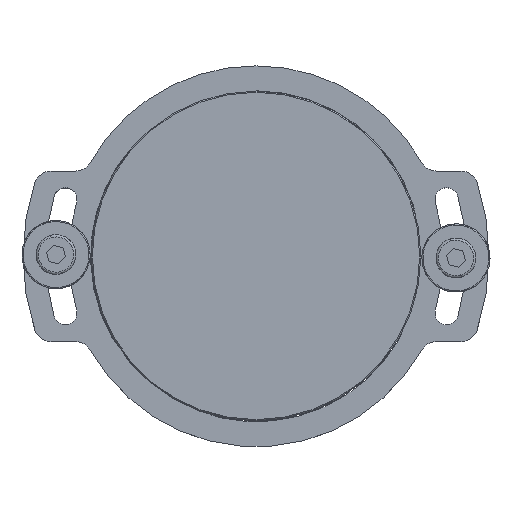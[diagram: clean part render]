
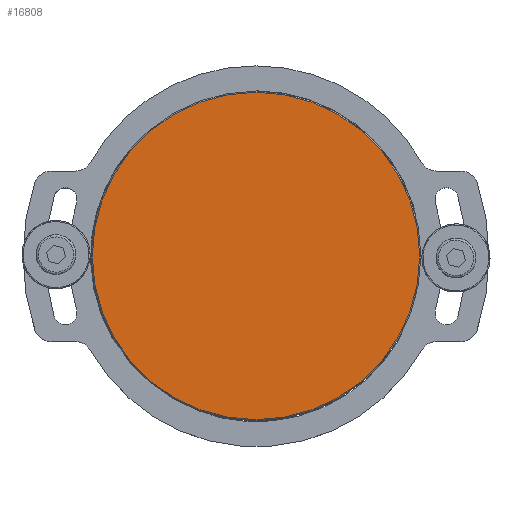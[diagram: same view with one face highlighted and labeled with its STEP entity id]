
A CAD part, top view. The second image highlights one B-rep face of the part: STEP entity #16808.
In plain terms, the highlighted planar face has unit normal (0, 0, 1).
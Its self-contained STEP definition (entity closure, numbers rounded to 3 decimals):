
#1720 = CARTESIAN_POINT ( 'NONE',  ( 0., 0., 20.353 ) ) ;
#1766 = PLANE ( 'NONE',  #38777 ) ;
#2071 = CARTESIAN_POINT ( 'NONE',  ( 27.948, 0., 20.353 ) ) ;
#3791 = VERTEX_POINT ( 'NONE', #36453 ) ;
#5261 = DIRECTION ( 'NONE',  ( -1., 0., 0. ) ) ;
#10632 = ORIENTED_EDGE ( 'NONE', *, *, #31289, .F. ) ;
#11348 = FACE_OUTER_BOUND ( 'NONE', #15155, .T. ) ;
#14246 = CIRCLE ( 'NONE', #18205, 28.8 ) ;
#15155 = EDGE_LOOP ( 'NONE', ( #10632, #39807 ) ) ;
#16808 = ADVANCED_FACE ( 'NONE', ( #11348 ), #1766, .F. ) ;
#18205 = AXIS2_PLACEMENT_3D ( 'NONE', #19063, #19635, #36569 ) ;
#19063 = CARTESIAN_POINT ( 'NONE',  ( 0., 0., 20.353 ) ) ;
#19635 = DIRECTION ( 'NONE',  ( 0., 0., -1. ) ) ;
#20237 = VERTEX_POINT ( 'NONE', #30316 ) ;
#25100 = CIRCLE ( 'NONE', #25927, 28.8 ) ;
#25247 = DIRECTION ( 'NONE',  ( -1., 0., 0. ) ) ;
#25927 = AXIS2_PLACEMENT_3D ( 'NONE', #1720, #42625, #5261 ) ;
#30316 = CARTESIAN_POINT ( 'NONE',  ( -28.8, 0., 20.353 ) ) ;
#31289 = EDGE_CURVE ( 'NONE', #20237, #3791, #25100, .T. ) ;
#32087 = DIRECTION ( 'NONE',  ( 0., 0., -1. ) ) ;
#36420 = EDGE_CURVE ( 'NONE', #3791, #20237, #14246, .T. ) ;
#36453 = CARTESIAN_POINT ( 'NONE',  ( 28.8, 0., 20.353 ) ) ;
#36569 = DIRECTION ( 'NONE',  ( -1., 0., 0. ) ) ;
#38777 = AXIS2_PLACEMENT_3D ( 'NONE', #2071, #32087, #25247 ) ;
#39807 = ORIENTED_EDGE ( 'NONE', *, *, #36420, .F. ) ;
#42625 = DIRECTION ( 'NONE',  ( 0., 0., -1. ) ) ;
